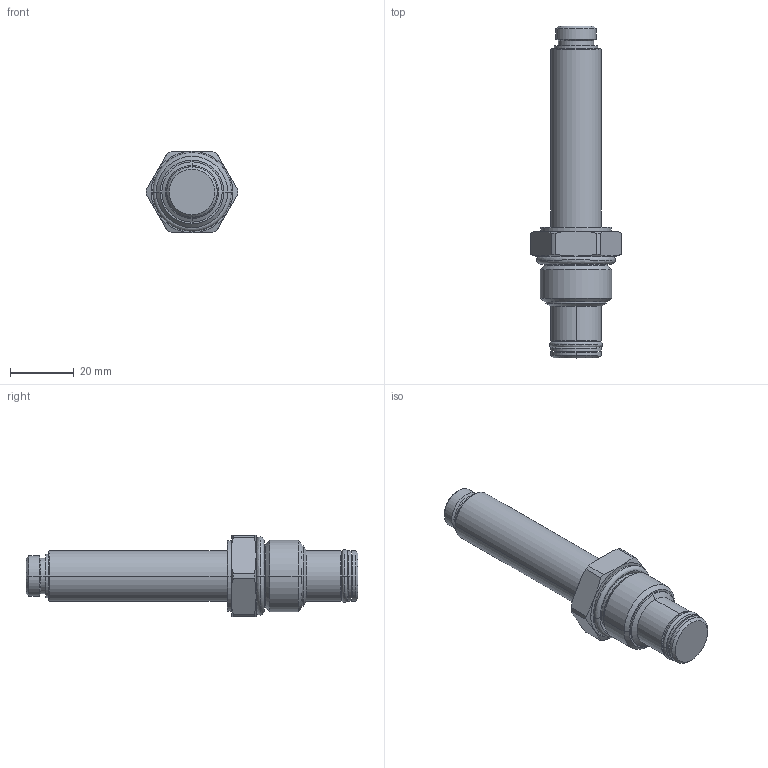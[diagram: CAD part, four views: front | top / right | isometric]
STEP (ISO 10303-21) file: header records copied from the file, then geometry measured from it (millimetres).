
FILE_DESCRIPTION((''),'2;1');
FILE_NAME('5021000_SW0001','2009-03-02T',('JCS'),(''),'PRO/ENGINEER BY PARAMETRIC TECHNOLOGY CORPORATION, 2008010','PRO/ENGINEER BY PARAMETRIC TECHNOLOGY CORPORATION, 2008010','');
FILE_SCHEMA(('CONFIG_CONTROL_DESIGN'));
Length unit declared in the file: inch
Products named in the file (1): 5021000_SW0001
Bounding box: 28.57 x 103.73 x 25.4 mm (x, y, z)
Volume: 25660.3 mm3; surface area: 7898.2 mm2
Topology: 2 solids, 2 shells, 119 faces, 258 edges, 148 vertices
Faces by surface type: cone 38, cylinder 34, torus 16, revolution 16, plane 15
Entity records: 3590 total; most frequent: CARTESIAN_POINT 931, DIRECTION 586, ORIENTED_EDGE 516, EDGE_CURVE 258, AXIS2_PLACEMENT_3D 249, VERTEX_POINT 148, CIRCLE 146, EDGE_LOOP 126
